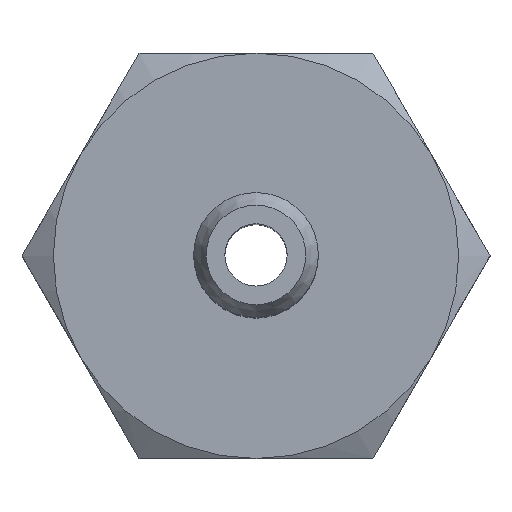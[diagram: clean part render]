
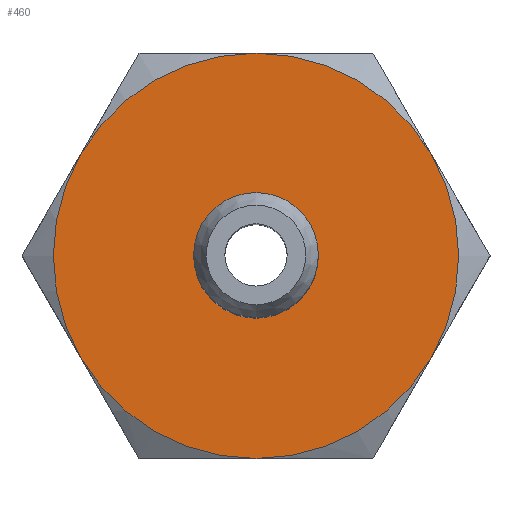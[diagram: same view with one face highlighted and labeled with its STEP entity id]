
A CAD part, top view. The second image highlights one B-rep face of the part: STEP entity #460.
In plain terms, the highlighted planar face has unit normal (0, 0, 1).
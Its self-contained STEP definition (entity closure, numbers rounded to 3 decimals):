
#460=ADVANCED_FACE('', (#470,#480), #490, .T.);
#2300=AXIS2_PLACEMENT_3D('Ax2Pl3d', #2310, #2320, #2330);
#2700=AXIS2_PLACEMENT_3D('Ax2Pl3d', #2710, #2720, #2730);
#2740=AXIS2_PLACEMENT_3D('Ax2Pl3d', #2750, #2760, #2770);
#2780=AXIS2_PLACEMENT_3D('Ax2Pl3d', #2790, #2800, #2810);
#2820=AXIS2_PLACEMENT_3D('Ax2Pl3d', #2830, #2840, #2850);
#2860=AXIS2_PLACEMENT_3D('Ax2Pl3d', #2870, #2880, #2890);
#2900=AXIS2_PLACEMENT_3D('Ax2Pl3d', #2910, #2920, #2930);
#2940=AXIS2_PLACEMENT_3D('Ax2Pl3d', #2950, #2960, #2970);
#6570=CARTESIAN_POINT('', (2.361,3.25,13.569));
#6640=CARTESIAN_POINT('', (7.99,6.5,13.569));
#6680=CARTESIAN_POINT('', (13.619,3.25,13.569));
#6730=CARTESIAN_POINT('', (13.619,-3.25,13.569));
#6800=CARTESIAN_POINT('', (7.99,-6.5,13.569));
#6810=CARTESIAN_POINT('', (2.361,-3.25,13.569));
#2310=CARTESIAN_POINT('HicPkt', (7.99,0.,13.569));
#2710=CARTESIAN_POINT('HicPkt', (14.49,0.,13.569));
#2750=CARTESIAN_POINT('HicPkt', (7.99,0.,13.569));
#2790=CARTESIAN_POINT('HicPkt', (7.99,0.,13.569));
#2830=CARTESIAN_POINT('HicPkt', (7.99,0.,13.569));
#2870=CARTESIAN_POINT('HicPkt', (7.99,0.,13.569));
#2910=CARTESIAN_POINT('HicPkt', (7.99,0.,13.569));
#2950=CARTESIAN_POINT('HicPkt', (7.99,0.,13.569));
#6870=CARTESIAN_POINT('', (7.99,2.,13.569));
#7150=CIRCLE('Circle', #2300, 6.5);
#7230=CIRCLE('Circle', #2740, 6.5);
#7240=CIRCLE('Circle', #2780, 6.5);
#7250=CIRCLE('Circle', #2820, 6.5);
#7260=CIRCLE('Circle', #2860, 6.5);
#7270=CIRCLE('Circle', #2900, 6.5);
#7280=CIRCLE('Circle', #2940, 2.);
#2320=DIRECTION('Axis', (0.,0.,-1.));
#2330=DIRECTION('RefDirection', (-1.,-0.,0.));
#2720=DIRECTION('Axis', (0.,0.,1.));
#2730=DIRECTION('RefDirection', (1.,0.,-0.));
#2760=DIRECTION('Axis', (0.,0.,-1.));
#2770=DIRECTION('RefDirection', (-1.,-0.,0.));
#2800=DIRECTION('Axis', (0.,0.,-1.));
#2810=DIRECTION('RefDirection', (-1.,-0.,0.));
#2840=DIRECTION('Axis', (0.,0.,-1.));
#2850=DIRECTION('RefDirection', (-1.,-0.,0.));
#2880=DIRECTION('Axis', (0.,0.,-1.));
#2890=DIRECTION('RefDirection', (-1.,-0.,0.));
#2920=DIRECTION('Axis', (0.,0.,-1.));
#2930=DIRECTION('RefDirection', (-1.,-0.,0.));
#2960=DIRECTION('Axis', (0.,0.,1.));
#2970=DIRECTION('RefDirection', (1.,0.,-0.));
#10690=EDGE_CURVE('', #10470, #10590, #7150, .T.);
#10790=EDGE_CURVE('', #10380, #10470, #7230, .T.);
#10800=EDGE_CURVE('', #10300, #10380, #7240, .T.);
#10810=EDGE_CURVE('', #10180, #10300, #7250, .T.);
#10820=EDGE_CURVE('', #10620, #10180, #7260, .T.);
#10830=EDGE_CURVE('', #10590, #10620, #7270, .T.);
#10840=EDGE_CURVE('', #10850, #10850, #7280, .T.);
#12050=EDGE_LOOP('Edge_loop', (#12060,#12070,#12080,#12090,#12100,
#12110));
#12120=EDGE_LOOP('Edge_loop', (#12130));
#480=FACE_BOUND('', #12120, .T.);
#470=FACE_OUTER_BOUND('Face_outer_bound', #12050, .T.);
#12060=ORIENTED_EDGE('', *, *, #10690, .F.);
#12070=ORIENTED_EDGE('', *, *, #10790, .F.);
#12080=ORIENTED_EDGE('', *, *, #10800, .F.);
#12090=ORIENTED_EDGE('', *, *, #10810, .F.);
#12100=ORIENTED_EDGE('', *, *, #10820, .F.);
#12110=ORIENTED_EDGE('', *, *, #10830, .F.);
#12130=ORIENTED_EDGE('', *, *, #10840, .F.);
#490=PLANE('Plane', #2700);
#10180=VERTEX_POINT('', #6570);
#10300=VERTEX_POINT('', #6640);
#10380=VERTEX_POINT('', #6680);
#10470=VERTEX_POINT('', #6730);
#10590=VERTEX_POINT('', #6800);
#10620=VERTEX_POINT('', #6810);
#10850=VERTEX_POINT('', #6870);
